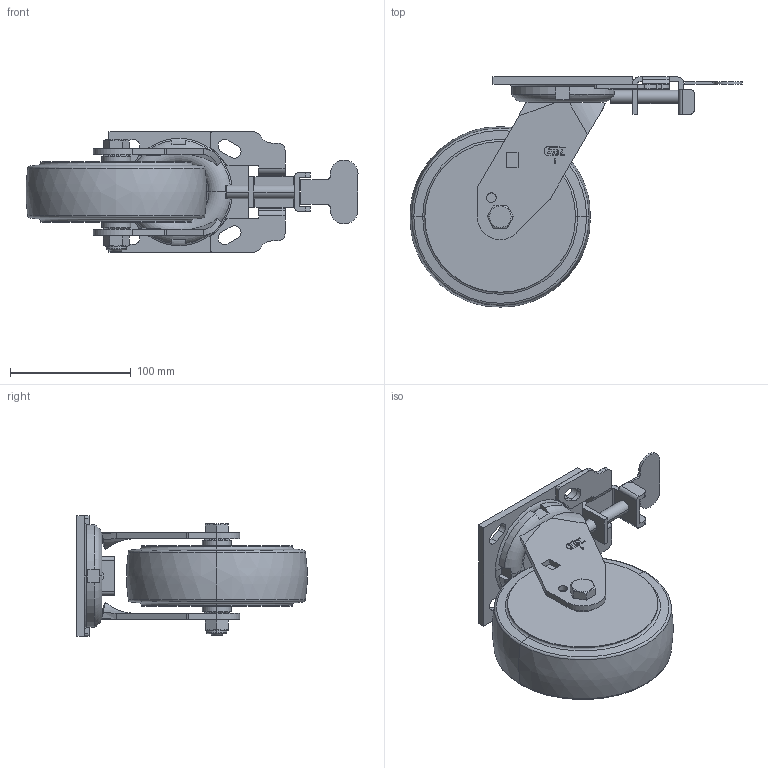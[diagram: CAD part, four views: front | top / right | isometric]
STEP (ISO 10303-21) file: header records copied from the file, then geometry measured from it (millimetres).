
FILE_DESCRIPTION((''),'2;1');
FILE_NAME('73126R-736-86_ASM','2020-12-02T',('lenovo'),(''),'PRO/ENGINEER BY PARAMETRIC TECHNOLOGY CORPORATION, 2010280','PRO/ENGINEER BY PARAMETRIC TECHNOLOGY CORPORATION, 2010280','');
FILE_SCHEMA(('CONFIG_CONTROL_DESIGN'));
Length unit declared in the file: millimetre
Products named in the file (9): 7310-201; 7310-211; 7316-353; 7316-311_ASM; 736-86; 7010-33; 7010-34; LUNSHA; 73126R-736-86_ASM
Assembly tree (8 placements, depth 3):
  73126R-736-86_ASM
    7310-201
    7316-311_ASM
      7310-211
      7316-353
    736-86
    7010-33
    7010-34
    LUNSHA
Bounding box: 275.33 x 190.83 x 100 mm (x, y, z)
Volume: 1074879.7 mm3; surface area: 152271.9 mm2
Topology: 9 solids, 9 shells, 412 faces, 1035 edges, 658 vertices
Faces by surface type: plane 215, cylinder 111, torus 54, cone 22, bspline 10
Entity records: 13077 total; most frequent: CARTESIAN_POINT 2793, DIRECTION 2167, ORIENTED_EDGE 2070, EDGE_CURVE 1035, AXIS2_PLACEMENT_3D 765, VERTEX_POINT 658, VECTOR 637, LINE 637
